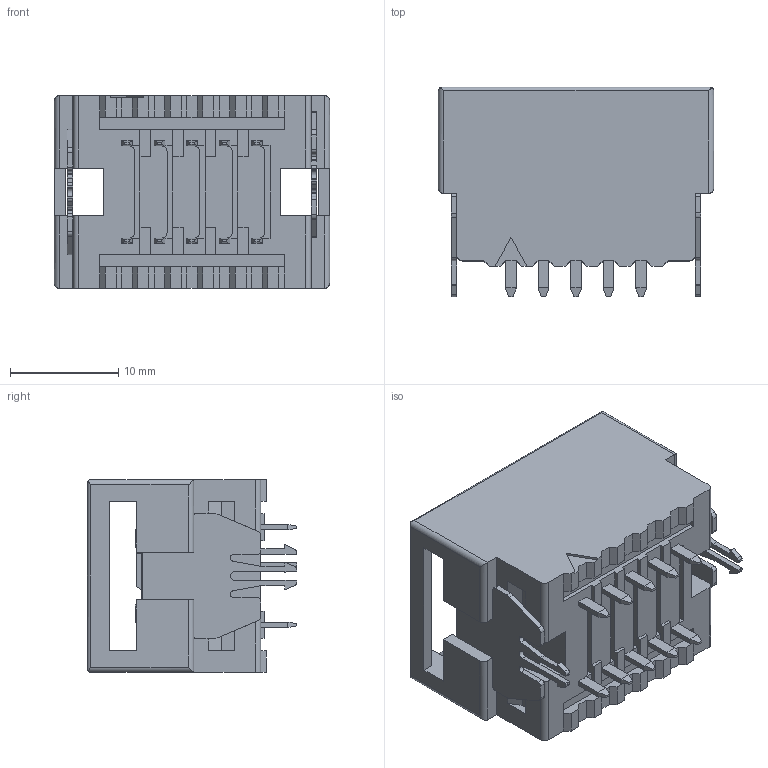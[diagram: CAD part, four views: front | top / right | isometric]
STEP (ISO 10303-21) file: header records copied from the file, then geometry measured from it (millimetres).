
FILE_DESCRIPTION(/* description */ (''),/* implementation_level */ '2;1');
FILE_NAME(/* name */ '35610-6234-B00 XX_step.stp',/* time_stamp */ '2008-08-05T12:53:19-05:00',/* author */ (''),/* organization */ (''),/* preprocessor_version */ 'ST-DEVELOPER v11',/* originating_system */ 'UGS - NX 5.0',/* authorisation */ '');
FILE_SCHEMA (('CONFIG_CONTROL_DESIGN'));
Length unit declared in the file: millimetre
Products named in the file (1): 35610-6234-B00 XX_3Dnon-pram
Bounding box: 25.4 x 19.3 x 17.8 mm (x, y, z)
Volume: 3331.6 mm3; surface area: 4313.3 mm2
Topology: 1 solids, 1 shells, 779 faces, 2135 edges, 1384 vertices
Faces by surface type: plane 705, cylinder 68, extrusion 6
Entity records: 24569 total; most frequent: CARTESIAN_POINT 4677, ORIENTED_EDGE 4270, DIRECTION 3793, EDGE_CURVE 2135, VECTOR 1997, LINE 1991, VERTEX_POINT 1384, AXIS2_PLACEMENT_3D 898
